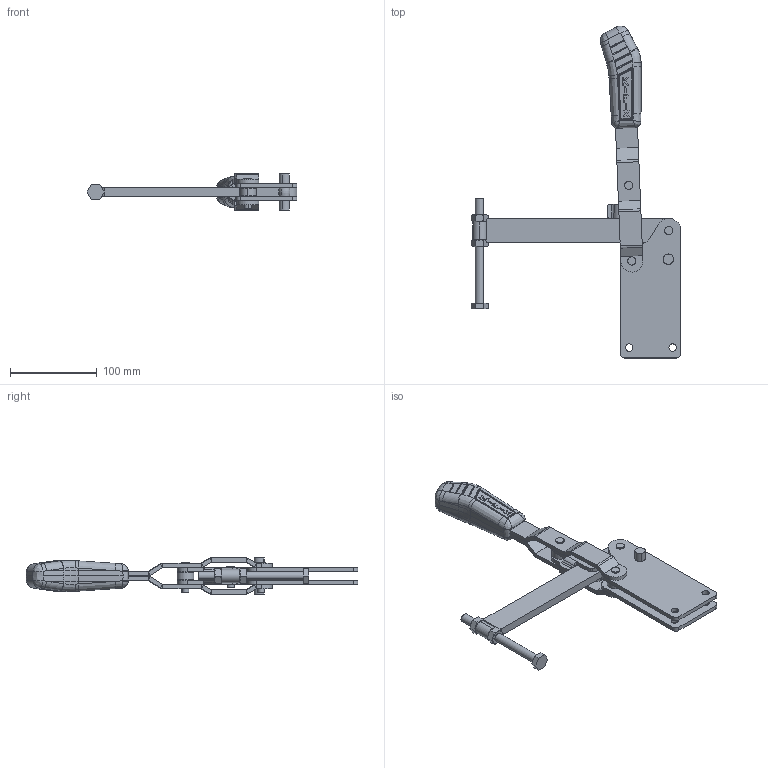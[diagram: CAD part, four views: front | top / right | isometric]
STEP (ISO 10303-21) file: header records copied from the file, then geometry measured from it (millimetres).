
FILE_DESCRIPTION (( 'STEP AP203' ), '1' );
FILE_NAME ('KF-641 RS.STEP', '2014-08-13T20:49:54', ( 'Ricardo' ), ( '' ), 'SwSTEP 2.0', 'SolidWorks 2013', '' );
FILE_SCHEMA (( 'CONFIG_CONTROL_DESIGN' ));
Length unit declared in the file: millimetre
Products named in the file (15): 16.20018; PSB-M10x120; 05.20006; 07.60003; 3670000076; KF-641 RS; 3670000077; 02.11026; 20.20005; 01.10030; 11.50003; 03.15013; 12.50017; 08.10021_Direita; 08.10021_Esquerda
Assembly tree (20 placements, depth 3):
  KF-641 RS
    02.11026  x2
    01.10030  x2
    03.15013
    08.10021_Direita
    08.10021_Esquerda
    16.20018
    05.20006  x2
    3670000076  x2
    3670000077  x2
    PSB-M10x120
      20.20005
      11.50003  x2
      12.50017
    07.60003
Bounding box: 241.75 x 382.63 x 41.6 mm (x, y, z)
Volume: 361934.4 mm3; surface area: 140797.3 mm2
Topology: 19 solids, 19 shells, 770 faces, 1880 edges, 1161 vertices
Faces by surface type: plane 290, cylinder 244, bspline 147, sphere 48, cone 36, torus 5
Entity records: 24390 total; most frequent: CARTESIAN_POINT 8811, ORIENTED_EDGE 3148, DIRECTION 2493, EDGE_CURVE 1574, VERTEX_POINT 981, AXIS2_PLACEMENT_3D 973, EDGE_LOOP 703, FACE_OUTER_BOUND 642
